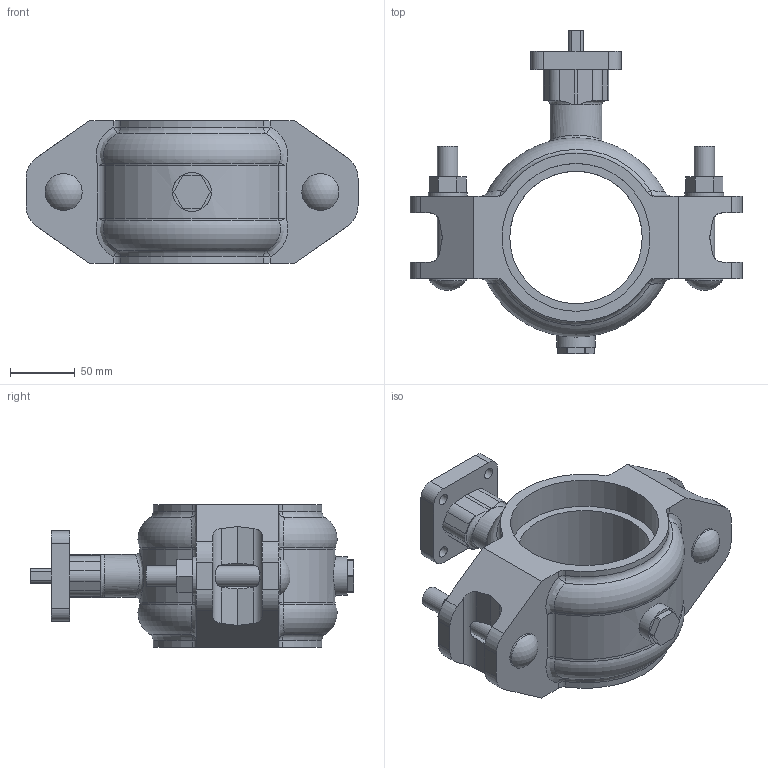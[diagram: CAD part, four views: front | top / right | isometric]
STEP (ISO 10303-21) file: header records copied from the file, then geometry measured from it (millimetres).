
FILE_DESCRIPTION(/* description */ ('VIC SS IR VALVE BUTTERFLY BARE SERIES 124 (OGS)','CAx-IF Rec.Pracs.---Representation and Presentation of Product Manufacturing Information (PMI)---4.0---2014-10-13'),/* implementation_level */ '2;1');
FILE_NAME(/* name */ 'C:\IR-124\step\Victaulic_SS-OGS_Valve Butterfly Bare_IR_Series 124 (OGS)\Victaulic_SS-OGS_Valve Butterfly Bare_IR_Series 124 (OGS)_4 (100).stp',/* time_stamp */ '2021-08-02T15:24:20+06:00',/* author */ ('Vjadhav'),/* organization */ ('Victaulic'),/* preprocessor_version */ 'ST-DEVELOPER v17.2',/* originating_system */ 'Autodesk Inventor 2019',/* authorisation */ '');
FILE_SCHEMA (('AP242_MANAGED_MODEL_BASED_3D_ENGINEERING_MIM_LF { 1 0 10303 442 1 1 4 }'));
Length unit declared in the file: inch
Products named in the file (1): 124-04.0
Bounding box: 256.54 x 250.19 x 110.49 mm (x, y, z)
Volume: 1519507.9 mm3; surface area: 172826.1 mm2
Topology: 1 solids, 1 shells, 198 faces, 512 edges, 331 vertices
Faces by surface type: plane 91, cylinder 66, sphere 18, torus 12, bspline 11
Full cylindrical faces by diameter (mm): 8.788 x4, 15.875 x4, 28.575 x2, 29.845 x1, 29.972 x2, 102.394 x1, 114.3 x2
Entity records: 7316 total; most frequent: CARTESIAN_POINT 2045, DIRECTION 1069, ORIENTED_EDGE 1024, EDGE_CURVE 512, AXIS2_PLACEMENT_3D 398, VERTEX_POINT 331, LINE 273, VECTOR 273
